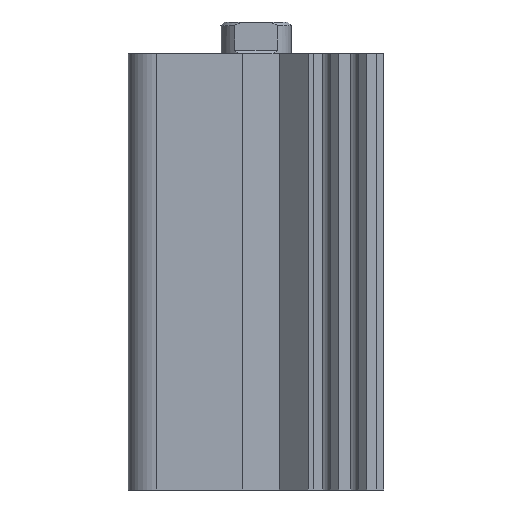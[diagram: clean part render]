
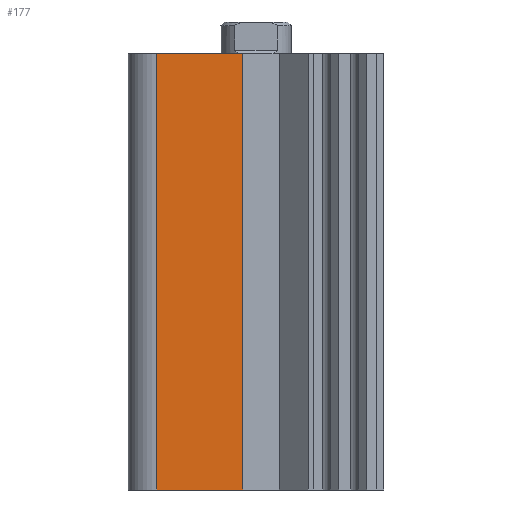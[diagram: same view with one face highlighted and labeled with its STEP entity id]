
A CAD part, left-side view. The second image highlights one B-rep face of the part: STEP entity #177.
In plain terms, the highlighted planar face has unit normal (-1, 0, 0).
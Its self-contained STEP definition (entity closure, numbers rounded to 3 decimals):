
#177 = ADVANCED_FACE( '', ( #408 ), #409, .T. );
#408 = FACE_OUTER_BOUND( '', #742, .T. );
#409 = PLANE( '', #743 );
#742 = EDGE_LOOP( '', ( #1103, #1104, #1105, #1106 ) );
#743 = AXIS2_PLACEMENT_3D( '', #1107, #1108, #1109 );
#1103 = ORIENTED_EDGE( '', *, *, #1745, .F. );
#1104 = ORIENTED_EDGE( '', *, *, #1735, .F. );
#1105 = ORIENTED_EDGE( '', *, *, #1746, .T. );
#1106 = ORIENTED_EDGE( '', *, *, #1747, .T. );
#1107 = CARTESIAN_POINT( '', ( -18., 14., -61.5 ) );
#1108 = DIRECTION( '', ( -1., 0., 0. ) );
#1109 = DIRECTION( '', ( 0., 0., 1. ) );
#1735 = EDGE_CURVE( '', #2009, #2005, #2011, .T. );
#1745 = EDGE_CURVE( '', #2005, #2027, #2028, .T. );
#1746 = EDGE_CURVE( '', #2009, #2029, #2030, .T. );
#1747 = EDGE_CURVE( '', #2029, #2027, #2031, .T. );
#2005 = VERTEX_POINT( '', #2392 );
#2009 = VERTEX_POINT( '', #2397 );
#2011 = LINE( '', #2399, #2400 );
#2027 = VERTEX_POINT( '', #2420 );
#2028 = LINE( '', #2421, #2422 );
#2029 = VERTEX_POINT( '', #2423 );
#2030 = LINE( '', #2424, #2425 );
#2031 = LINE( '', #2426, #2427 );
#2392 = CARTESIAN_POINT( '', ( -18., 14., 0. ) );
#2397 = CARTESIAN_POINT( '', ( -18., 14., -61.5 ) );
#2399 = CARTESIAN_POINT( '', ( -18., 14., -61.5 ) );
#2400 = VECTOR( '', #2840, 1000. );
#2420 = CARTESIAN_POINT( '', ( -18., 1.878, 0. ) );
#2421 = CARTESIAN_POINT( '', ( -18., 14., 0. ) );
#2422 = VECTOR( '', #2851, 1000. );
#2423 = CARTESIAN_POINT( '', ( -18., 1.878, -61.5 ) );
#2424 = CARTESIAN_POINT( '', ( -18., 14., -61.5 ) );
#2425 = VECTOR( '', #2852, 1000. );
#2426 = CARTESIAN_POINT( '', ( -18., 1.878, -61.5 ) );
#2427 = VECTOR( '', #2853, 1000. );
#2840 = DIRECTION( '', ( 0., 0., 1. ) );
#2851 = DIRECTION( '', ( 0., -1., 0. ) );
#2852 = DIRECTION( '', ( 0., -1., 0. ) );
#2853 = DIRECTION( '', ( 0., 0., 1. ) );
